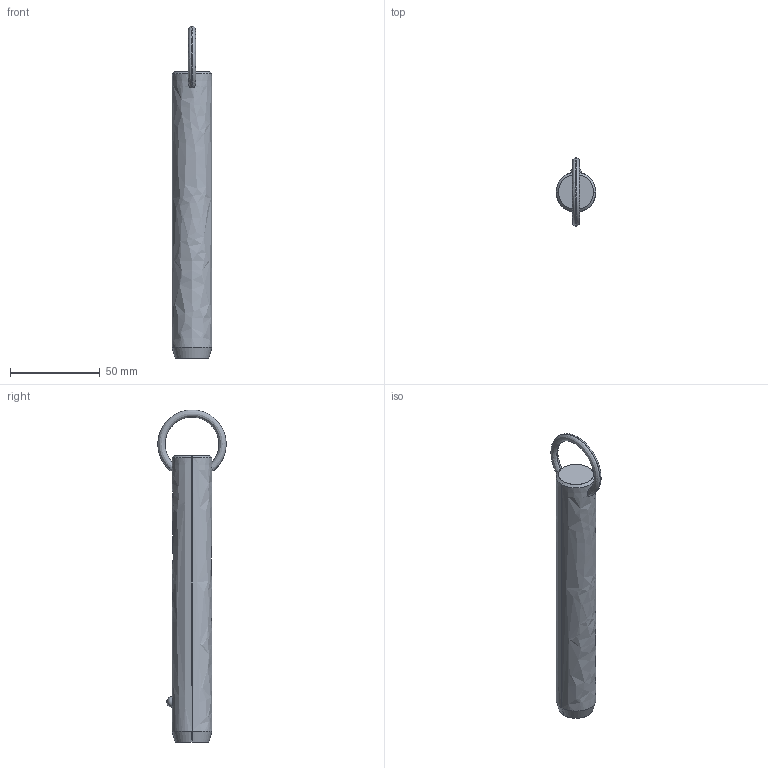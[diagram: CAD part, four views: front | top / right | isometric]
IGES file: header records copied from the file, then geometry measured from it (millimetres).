
Start section: SolidWorks IGES file using analytic representation for surfaces
Global section: file name: C:\Users\liam_\OneDrive\Documents\WORK\Work for WixRoyd\Job Files\J-00019 - Matt Davis CAD Checking\04. CAD Drawings\automotion20190605\P1250.2_v2\P1250.2_v2_20190729_IGES\P1250.087-480.igs; native system: SolidWorks 2017; preprocessor: SolidWorks 2017; author: liam_; date: 190730.001308; units: millimetre
Bounding box: 22.2 x 38.06 x 185.38 mm (x, y, z)
Surface area: 12802.7 mm2 (no closed solid volume)
Topology: 0 solids, 0 shells, 12 faces, 302 edges, 300 vertices
Faces by surface type: revolution 8, bspline 4
